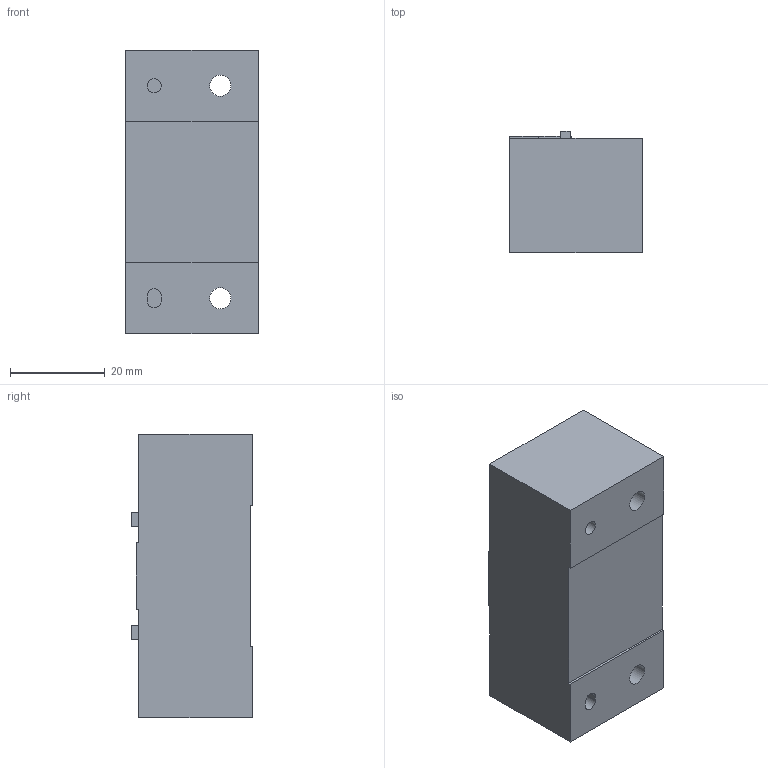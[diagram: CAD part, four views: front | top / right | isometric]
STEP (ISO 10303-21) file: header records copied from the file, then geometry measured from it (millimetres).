
FILE_DESCRIPTION(/* description */ (''),/* implementation_level */ '2;1');
FILE_NAME(/* name */ 'C:\Users\strothej\Documents\ActualDocuments\MicroscopeParts\TwoPhotonSystem\ScanningMechanics\v32\Drawings\Adapter_Breadboard_Kinematic_Mount.stp',/* time_stamp */ '2017-09-01T10:12:14-07:00',/* author */ ('strothej'),/* organization */ (''),/* preprocessor_version */ 'ST-DEVELOPER v16.1',/* originating_system */ 'Autodesk Inventor 2016',/* authorisation */ '');
FILE_SCHEMA (('AUTOMOTIVE_DESIGN { 1 0 10303 214 3 1 1 }'));
Length unit declared in the file: millimetre
Products named in the file (1): Adapter_Breadboard_Kinematic_Mount
Bounding box: 28 x 25.6 x 60 mm (x, y, z)
Volume: 38290.6 mm3; surface area: 8821.7 mm2
Topology: 1 solids, 1 shells, 39 faces, 92 edges, 61 vertices
Faces by surface type: plane 29, cylinder 9, cone 1
Full cylindrical faces by diameter (mm): 3 x1, 3.242 x1, 4.5 x2, 7.5 x2
Entity records: 1104 total; most frequent: CARTESIAN_POINT 184, DIRECTION 182, ORIENTED_EDGE 168, EDGE_CURVE 84, LINE 66, VECTOR 66, VERTEX_POINT 60, AXIS2_PLACEMENT_3D 58
